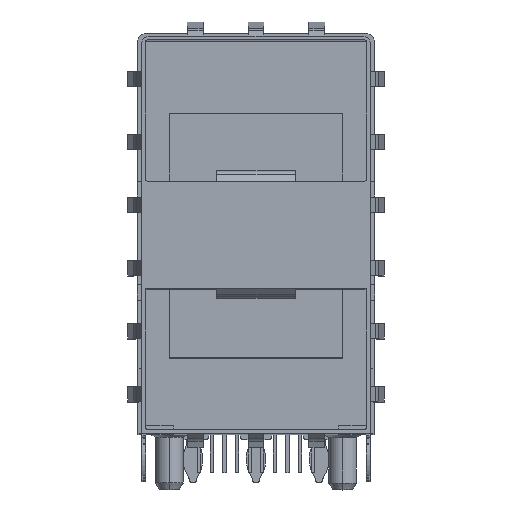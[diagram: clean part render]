
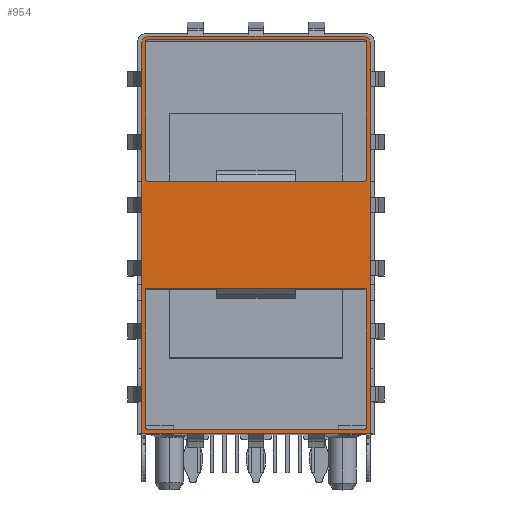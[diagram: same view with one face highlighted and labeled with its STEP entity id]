
A CAD part, top view. The second image highlights one B-rep face of the part: STEP entity #954.
In plain terms, the highlighted planar face has unit normal (0, 0, 1).
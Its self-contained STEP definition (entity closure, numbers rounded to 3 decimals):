
#64=PLANE('',#15017);
#639=FACE_BOUND('',#2547,.T.);
#640=FACE_BOUND('',#2548,.T.);
#641=FACE_BOUND('',#2549,.T.);
#954=ADVANCED_FACE('',(#639,#640,#641),#64,.F.);
#2547=EDGE_LOOP('',(#7134,#7135,#7136,#7137,#7138,#7139));
#2548=EDGE_LOOP('',(#7140,#7141,#7142,#7143,#7144,#7145,#7146,#7147));
#2549=EDGE_LOOP('',(#7148,#7149,#7150,#7151,#7152,#7153,#7154,#7155));
#3415=LINE('',#20320,#5101);
#3537=LINE('',#20648,#5223);
#3601=LINE('',#20876,#5287);
#3602=LINE('',#20880,#5288);
#3603=LINE('',#20882,#5289);
#3604=LINE('',#20887,#5290);
#3605=LINE('',#20891,#5291);
#3606=LINE('',#20895,#5292);
#3607=LINE('',#20901,#5293);
#3608=LINE('',#20905,#5294);
#3609=LINE('',#20909,#5295);
#3610=LINE('',#20913,#5296);
#5101=VECTOR('',#16205,1.);
#5223=VECTOR('',#16437,1.);
#5287=VECTOR('',#16613,1.);
#5288=VECTOR('',#16616,1.);
#5289=VECTOR('',#16619,1.);
#5290=VECTOR('',#16622,1.);
#5291=VECTOR('',#16625,1.);
#5292=VECTOR('',#16628,1.);
#5293=VECTOR('',#16633,1.);
#5294=VECTOR('',#16636,1.);
#5295=VECTOR('',#16639,1.);
#5296=VECTOR('',#16642,1.);
#7134=ORIENTED_EDGE('',*,*,#12687,.T.);
#7135=ORIENTED_EDGE('',*,*,#12688,.T.);
#7136=ORIENTED_EDGE('',*,*,#12411,.T.);
#7137=ORIENTED_EDGE('',*,*,#12689,.T.);
#7138=ORIENTED_EDGE('',*,*,#12573,.T.);
#7139=ORIENTED_EDGE('',*,*,#12690,.T.);
#7140=ORIENTED_EDGE('',*,*,#12691,.F.);
#7141=ORIENTED_EDGE('',*,*,#12692,.F.);
#7142=ORIENTED_EDGE('',*,*,#12693,.F.);
#7143=ORIENTED_EDGE('',*,*,#12694,.F.);
#7144=ORIENTED_EDGE('',*,*,#12695,.F.);
#7145=ORIENTED_EDGE('',*,*,#12696,.F.);
#7146=ORIENTED_EDGE('',*,*,#12697,.F.);
#7147=ORIENTED_EDGE('',*,*,#12698,.F.);
#7148=ORIENTED_EDGE('',*,*,#12699,.T.);
#7149=ORIENTED_EDGE('',*,*,#12700,.T.);
#7150=ORIENTED_EDGE('',*,*,#12701,.T.);
#7151=ORIENTED_EDGE('',*,*,#12702,.T.);
#7152=ORIENTED_EDGE('',*,*,#12703,.T.);
#7153=ORIENTED_EDGE('',*,*,#12704,.T.);
#7154=ORIENTED_EDGE('',*,*,#12705,.T.);
#7155=ORIENTED_EDGE('',*,*,#12706,.T.);
#11013=VERTEX_POINT('',#20321);
#11014=VERTEX_POINT('',#20322);
#11163=VERTEX_POINT('',#20647);
#11164=VERTEX_POINT('',#20649);
#11272=VERTEX_POINT('',#20877);
#11273=VERTEX_POINT('',#20878);
#11274=VERTEX_POINT('',#20883);
#11275=VERTEX_POINT('',#20884);
#11276=VERTEX_POINT('',#20886);
#11277=VERTEX_POINT('',#20888);
#11278=VERTEX_POINT('',#20890);
#11279=VERTEX_POINT('',#20892);
#11280=VERTEX_POINT('',#20894);
#11281=VERTEX_POINT('',#20896);
#11282=VERTEX_POINT('',#20899);
#11283=VERTEX_POINT('',#20900);
#11284=VERTEX_POINT('',#20902);
#11285=VERTEX_POINT('',#20904);
#11286=VERTEX_POINT('',#20906);
#11287=VERTEX_POINT('',#20908);
#11288=VERTEX_POINT('',#20910);
#11289=VERTEX_POINT('',#20912);
#12411=EDGE_CURVE('',#11013,#11014,#3415,.T.);
#12573=EDGE_CURVE('',#11164,#11163,#3537,.T.);
#12687=EDGE_CURVE('',#11272,#11273,#3601,.T.);
#12688=EDGE_CURVE('',#11273,#11013,#14545,.T.);
#12689=EDGE_CURVE('',#11014,#11164,#3602,.T.);
#12690=EDGE_CURVE('',#11163,#11272,#14546,.T.);
#12691=EDGE_CURVE('',#11274,#11275,#3603,.T.);
#12692=EDGE_CURVE('',#11276,#11274,#14547,.T.);
#12693=EDGE_CURVE('',#11277,#11276,#3604,.T.);
#12694=EDGE_CURVE('',#11278,#11277,#14548,.T.);
#12695=EDGE_CURVE('',#11279,#11278,#3605,.T.);
#12696=EDGE_CURVE('',#11280,#11279,#14549,.T.);
#12697=EDGE_CURVE('',#11281,#11280,#3606,.T.);
#12698=EDGE_CURVE('',#11275,#11281,#14550,.T.);
#12699=EDGE_CURVE('',#11282,#11283,#14551,.T.);
#12700=EDGE_CURVE('',#11283,#11284,#3607,.T.);
#12701=EDGE_CURVE('',#11284,#11285,#14552,.T.);
#12702=EDGE_CURVE('',#11285,#11286,#3608,.T.);
#12703=EDGE_CURVE('',#11286,#11287,#14553,.T.);
#12704=EDGE_CURVE('',#11287,#11288,#3609,.T.);
#12705=EDGE_CURVE('',#11288,#11289,#14554,.T.);
#12706=EDGE_CURVE('',#11289,#11282,#3610,.T.);
#14545=CIRCLE('',#15007,0.5);
#14546=CIRCLE('',#15008,0.5);
#14547=CIRCLE('',#15009,0.1);
#14548=CIRCLE('',#15010,0.1);
#14549=CIRCLE('',#15011,0.1);
#14550=CIRCLE('',#15012,0.1);
#14551=CIRCLE('',#15013,0.1);
#14552=CIRCLE('',#15014,0.1);
#14553=CIRCLE('',#15015,0.1);
#14554=CIRCLE('',#15016,0.1);
#15007=AXIS2_PLACEMENT_3D('',#20879,#16614,#16615);
#15008=AXIS2_PLACEMENT_3D('',#20881,#16617,#16618);
#15009=AXIS2_PLACEMENT_3D('',#20885,#16620,#16621);
#15010=AXIS2_PLACEMENT_3D('',#20889,#16623,#16624);
#15011=AXIS2_PLACEMENT_3D('',#20893,#16626,#16627);
#15012=AXIS2_PLACEMENT_3D('',#20897,#16629,#16630);
#15013=AXIS2_PLACEMENT_3D('',#20898,#16631,#16632);
#15014=AXIS2_PLACEMENT_3D('',#20903,#16634,#16635);
#15015=AXIS2_PLACEMENT_3D('',#20907,#16637,#16638);
#15016=AXIS2_PLACEMENT_3D('',#20911,#16640,#16641);
#15017=AXIS2_PLACEMENT_3D('',#20914,#16643,#16644);
#16205=DIRECTION('',(0.,-1.,0.));
#16437=DIRECTION('',(0.,1.,0.));
#16613=DIRECTION('',(-1.,0.,0.));
#16614=DIRECTION('',(0.,0.,1.));
#16615=DIRECTION('',(-1.,0.,0.));
#16616=DIRECTION('',(1.,0.,0.));
#16617=DIRECTION('',(0.,0.,1.));
#16618=DIRECTION('',(-1.,0.,0.));
#16619=DIRECTION('',(-1.,0.,0.));
#16620=DIRECTION('',(0.,0.,1.));
#16621=DIRECTION('',(-1.,0.,0.));
#16622=DIRECTION('',(0.,1.,0.));
#16623=DIRECTION('',(0.,0.,1.));
#16624=DIRECTION('',(1.,0.,0.));
#16625=DIRECTION('',(1.,0.,0.));
#16626=DIRECTION('',(0.,0.,1.));
#16627=DIRECTION('',(1.,0.,0.));
#16628=DIRECTION('',(0.,-1.,0.));
#16629=DIRECTION('',(0.,0.,1.));
#16630=DIRECTION('',(1.,0.,0.));
#16631=DIRECTION('',(0.,0.,-1.));
#16632=DIRECTION('',(-1.,0.,0.));
#16633=DIRECTION('',(-1.,0.,0.));
#16634=DIRECTION('',(0.,0.,-1.));
#16635=DIRECTION('',(1.,0.,0.));
#16636=DIRECTION('',(0.,1.,0.));
#16637=DIRECTION('',(0.,0.,-1.));
#16638=DIRECTION('',(1.,0.,0.));
#16639=DIRECTION('',(1.,0.,0.));
#16640=DIRECTION('',(0.,0.,-1.));
#16641=DIRECTION('',(1.,0.,0.));
#16642=DIRECTION('',(0.,-1.,0.));
#16643=DIRECTION('',(0.,0.,-1.));
#16644=DIRECTION('',(1.,0.,0.));
#20320=CARTESIAN_POINT('',(-7.25,0.,0.));
#20321=CARTESIAN_POINT('',(-7.25,24.7,0.));
#20322=CARTESIAN_POINT('',(-7.25,0.,0.));
#20647=CARTESIAN_POINT('',(7.25,24.7,0.));
#20648=CARTESIAN_POINT('',(7.25,0.,0.));
#20649=CARTESIAN_POINT('',(7.25,0.,0.));
#20876=CARTESIAN_POINT('',(-7.25,25.2,0.));
#20877=CARTESIAN_POINT('',(6.75,25.2,0.));
#20878=CARTESIAN_POINT('',(-6.75,25.2,0.));
#20879=CARTESIAN_POINT('',(-6.75,24.7,0.));
#20880=CARTESIAN_POINT('',(-7.25,0.,0.));
#20881=CARTESIAN_POINT('',(6.75,24.7,0.));
#20882=CARTESIAN_POINT('',(-6.9,24.95,0.));
#20883=CARTESIAN_POINT('',(6.9,24.95,0.));
#20884=CARTESIAN_POINT('',(-6.9,24.95,0.));
#20885=CARTESIAN_POINT('',(6.9,24.85,0.));
#20886=CARTESIAN_POINT('',(7.,24.85,0.));
#20887=CARTESIAN_POINT('',(7.,24.85,0.));
#20888=CARTESIAN_POINT('',(7.,16.1,0.));
#20889=CARTESIAN_POINT('',(6.9,16.1,0.));
#20890=CARTESIAN_POINT('',(6.9,16.,0.));
#20891=CARTESIAN_POINT('',(-6.9,16.,0.));
#20892=CARTESIAN_POINT('',(-6.9,16.,0.));
#20893=CARTESIAN_POINT('',(-6.9,16.1,0.));
#20894=CARTESIAN_POINT('',(-7.,16.1,0.));
#20895=CARTESIAN_POINT('',(-7.,24.85,0.));
#20896=CARTESIAN_POINT('',(-7.,24.85,0.));
#20897=CARTESIAN_POINT('',(-6.9,24.85,0.));
#20898=CARTESIAN_POINT('',(6.9,0.35,0.));
#20899=CARTESIAN_POINT('',(7.,0.35,0.));
#20900=CARTESIAN_POINT('',(6.9,0.25,0.));
#20901=CARTESIAN_POINT('',(-6.9,0.25,0.));
#20902=CARTESIAN_POINT('',(-6.9,0.25,0.));
#20903=CARTESIAN_POINT('',(-6.9,0.35,0.));
#20904=CARTESIAN_POINT('',(-7.,0.35,0.));
#20905=CARTESIAN_POINT('',(-7.,0.35,0.));
#20906=CARTESIAN_POINT('',(-7.,9.1,0.));
#20907=CARTESIAN_POINT('',(-6.9,9.1,0.));
#20908=CARTESIAN_POINT('',(-6.9,9.2,0.));
#20909=CARTESIAN_POINT('',(-6.9,9.2,0.));
#20910=CARTESIAN_POINT('',(6.9,9.2,0.));
#20911=CARTESIAN_POINT('',(6.9,9.1,0.));
#20912=CARTESIAN_POINT('',(7.,9.1,0.));
#20913=CARTESIAN_POINT('',(7.,0.35,0.));
#20914=CARTESIAN_POINT('',(-7.25,25.2,0.));
